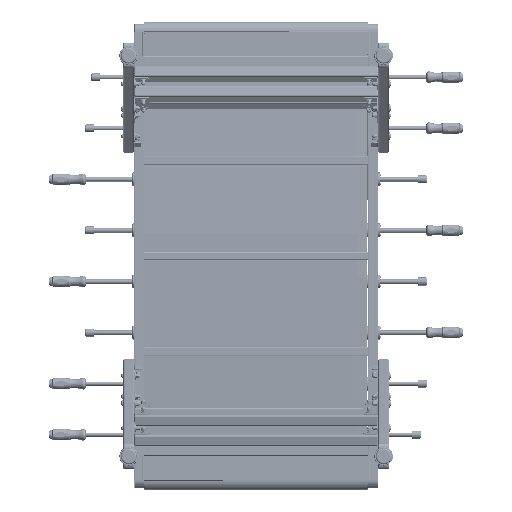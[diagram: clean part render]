
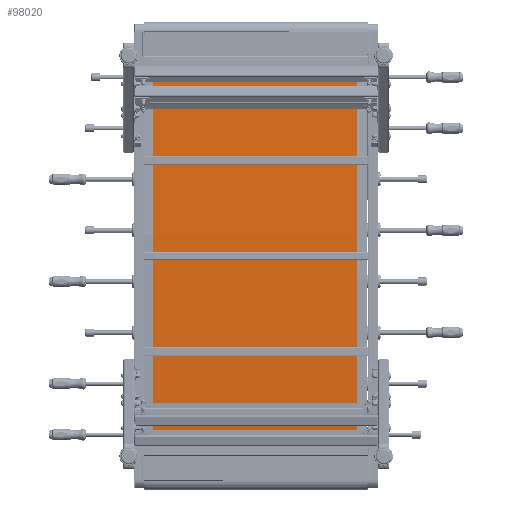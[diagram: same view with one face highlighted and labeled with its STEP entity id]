
A CAD part, front view. The second image highlights one B-rep face of the part: STEP entity #98020.
In plain terms, the highlighted free-form (B-spline) face has degree [2, 1] with [9, 2] control points.
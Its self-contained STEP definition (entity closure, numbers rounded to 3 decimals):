
#861 = CARTESIAN_POINT ( 'NONE',  ( 655.237, 20.917, 330. ) ) ;
#5190 = CARTESIAN_POINT ( 'NONE',  ( 10.156, 3.533, 330. ) ) ;
#7994 = CARTESIAN_POINT ( 'NONE',  ( -634.763, 26.156, 330. ) ) ;
#11795 = B_SPLINE_CURVE_WITH_KNOTS ( 'NONE', 3,
 ( #7994, #73649, #19934, #30625, #98342, #24703, #90260, #16600, #82218, #38709 ),
 .UNSPECIFIED., .F., .F.,
 ( 4, 2, 2, 2, 4 ),
 ( 0., 0.25, 0.5, 0.75, 1. ),
 .UNSPECIFIED. ) ;
#11884 = EDGE_LOOP ( 'NONE', ( #43356, #91483, #54058, #69908 ) ) ;
#12208 = CARTESIAN_POINT ( 'NONE',  ( 332.831, 7.225, 330. ) ) ;
#12714 = CARTESIAN_POINT ( 'NONE',  ( -151.21, 4.188, -330. ) ) ;
#13240 = CARTESIAN_POINT ( 'NONE',  ( 332.831, 7.225, -330. ) ) ;
#13857 = VERTEX_POINT ( 'NONE', #861 ) ;
#16600 = CARTESIAN_POINT ( 'NONE',  ( 440.37, 10.123, 330. ) ) ;
#17746 = VERTEX_POINT ( 'NONE', #41991 ) ;
#19934 = CARTESIAN_POINT ( 'NONE',  ( -419.991, 13.617, 330. ) ) ;
#20700 = CARTESIAN_POINT ( 'NONE',  ( -634.763, 26.156, 330. ) ) ;
#21329 = FACE_OUTER_BOUND ( 'NONE', #11884, .T. ) ;
#21849 = CARTESIAN_POINT ( 'NONE',  ( -312.479, 9.845, 330. ) ) ;
#23486 = CARTESIAN_POINT ( 'NONE',  ( 171.522, 2.878, -330. ) ) ;
#24703 = CARTESIAN_POINT ( 'NONE',  ( 117.733, 3.096, 330. ) ) ;
#25098 = CARTESIAN_POINT ( 'NONE',  ( -312.479, 9.845, -330. ) ) ;
#30625 = CARTESIAN_POINT ( 'NONE',  ( -204.967, 6.074, 330. ) ) ;
#31002 = CARTESIAN_POINT ( 'NONE',  ( -312.479, 9.845, -330. ) ) ;
#31557 = CARTESIAN_POINT ( 'NONE',  ( 332.831, 7.225, -330. ) ) ;
#34820 = VECTOR ( 'NONE', #73666, 1000. ) ;
#37996 = B_SPLINE_SURFACE_WITH_KNOTS ( 'NONE', 2, 1, ( 
 ( #46619, #104673 ),
 ( #54130, #71354 ),
 ( #21849, #31002 ),
 ( #38552, #12714 ),
 ( #5190, #104130 ),
 ( #45538, #79401 ),
 ( #12208, #13240 ),
 ( #103077, #69759 ),
 ( #86907, #46075 ) ),
 .UNSPECIFIED., .F., .F., .F.,
 ( 3, 2, 2, 2, 3 ),
 ( 2, 2 ),
 ( 0., 0.25, 0.5, 0.75, 1. ),
 ( 0., 1. ),
 .UNSPECIFIED. ) ;
#38552 = CARTESIAN_POINT ( 'NONE',  ( -151.21, 4.188, 330. ) ) ;
#38709 = CARTESIAN_POINT ( 'NONE',  ( 655.237, 20.917, 330. ) ) ;
#40105 = EDGE_CURVE ( 'NONE', #40565, #13857, #11795, .T. ) ;
#40565 = VERTEX_POINT ( 'NONE', #43351 ) ;
#41991 = CARTESIAN_POINT ( 'NONE',  ( 655.237, 20.917, -330. ) ) ;
#43351 = CARTESIAN_POINT ( 'NONE',  ( -634.763, 26.156, 330. ) ) ;
#43356 = ORIENTED_EDGE ( 'NONE', *, *, #99362, .T. ) ;
#45538 = CARTESIAN_POINT ( 'NONE',  ( 171.522, 2.878, 330. ) ) ;
#46075 = CARTESIAN_POINT ( 'NONE',  ( 655.237, 20.917, -330. ) ) ;
#46619 = CARTESIAN_POINT ( 'NONE',  ( -634.763, 26.156, 330. ) ) ;
#48761 = CARTESIAN_POINT ( 'NONE',  ( 494.14, 11.572, -330. ) ) ;
#50356 = CARTESIAN_POINT ( 'NONE',  ( -473.747, 15.502, -330. ) ) ;
#54025 = DIRECTION ( 'NONE',  ( 0., 0., -1. ) ) ;
#54058 = ORIENTED_EDGE ( 'NONE', *, *, #40105, .F. ) ;
#54130 = CARTESIAN_POINT ( 'NONE',  ( -473.747, 15.502, 330. ) ) ;
#54590 = B_SPLINE_CURVE_WITH_KNOTS ( 'NONE', 2,
 ( #56828, #50356, #25098, #83137, #89057, #23486, #31557, #48761, #97666 ),
 .UNSPECIFIED., .F., .F.,
 ( 3, 2, 2, 2, 3 ),
 ( 0., 0.25, 0.5, 0.75, 1. ),
 .UNSPECIFIED. ) ;
#56828 = CARTESIAN_POINT ( 'NONE',  ( -634.763, 26.156, -330. ) ) ;
#59376 = VERTEX_POINT ( 'NONE', #63293 ) ;
#63293 = CARTESIAN_POINT ( 'NONE',  ( -634.763, 26.156, -330. ) ) ;
#63983 = LINE ( 'NONE', #96743, #34820 ) ;
#68586 = VECTOR ( 'NONE', #54025, 1000. ) ;
#69759 = CARTESIAN_POINT ( 'NONE',  ( 494.14, 11.572, -330. ) ) ;
#69908 = ORIENTED_EDGE ( 'NONE', *, *, #99502, .T. ) ;
#71354 = CARTESIAN_POINT ( 'NONE',  ( -473.747, 15.502, -330. ) ) ;
#73649 = CARTESIAN_POINT ( 'NONE',  ( -527.42, 19.053, 330. ) ) ;
#73666 = DIRECTION ( 'NONE',  ( 0., 0., -1. ) ) ;
#77159 = EDGE_CURVE ( 'NONE', #13857, #17746, #63983, .T. ) ;
#79401 = CARTESIAN_POINT ( 'NONE',  ( 171.522, 2.878, -330. ) ) ;
#82218 = CARTESIAN_POINT ( 'NONE',  ( 547.839, 14.687, 330. ) ) ;
#83137 = CARTESIAN_POINT ( 'NONE',  ( -151.21, 4.188, -330. ) ) ;
#86907 = CARTESIAN_POINT ( 'NONE',  ( 655.237, 20.917, 330. ) ) ;
#89057 = CARTESIAN_POINT ( 'NONE',  ( 10.156, 3.533, -330. ) ) ;
#90260 = CARTESIAN_POINT ( 'NONE',  ( 225.292, 4.327, 330. ) ) ;
#91483 = ORIENTED_EDGE ( 'NONE', *, *, #77159, .F. ) ;
#96743 = CARTESIAN_POINT ( 'NONE',  ( 655.237, 20.917, 330. ) ) ;
#97666 = CARTESIAN_POINT ( 'NONE',  ( 655.237, 20.917, -330. ) ) ;
#98020 = ADVANCED_FACE ( 'NONE', ( #21329 ), #37996, .F. ) ;
#98342 = CARTESIAN_POINT ( 'NONE',  ( -97.422, 3.97, 330. ) ) ;
#99362 = EDGE_CURVE ( 'NONE', #59376, #17746, #54590, .T. ) ;
#99502 = EDGE_CURVE ( 'NONE', #40565, #59376, #104016, .T. ) ;
#103077 = CARTESIAN_POINT ( 'NONE',  ( 494.14, 11.572, 330. ) ) ;
#104016 = LINE ( 'NONE', #20700, #68586 ) ;
#104130 = CARTESIAN_POINT ( 'NONE',  ( 10.156, 3.533, -330. ) ) ;
#104673 = CARTESIAN_POINT ( 'NONE',  ( -634.763, 26.156, -330. ) ) ;
